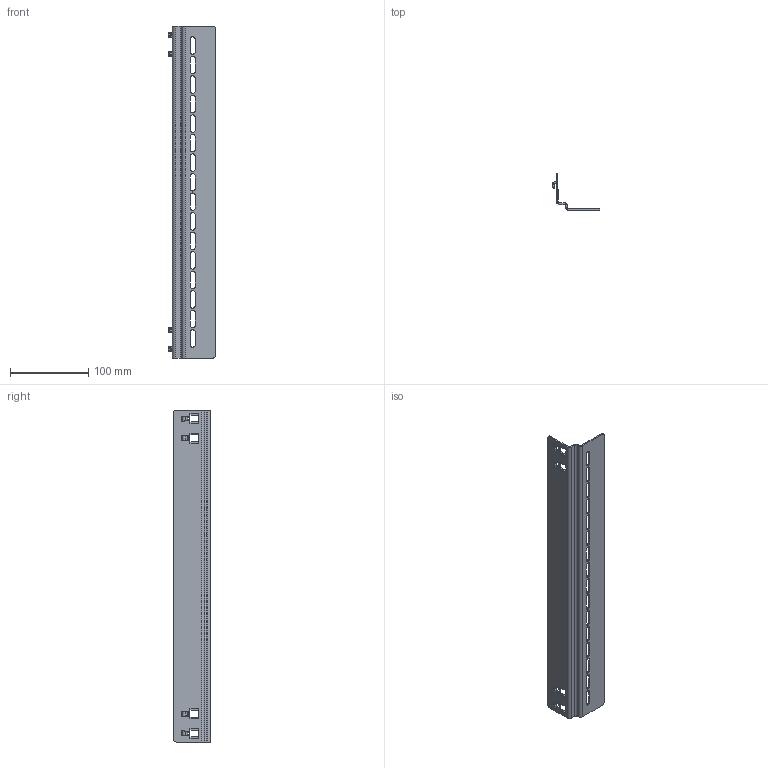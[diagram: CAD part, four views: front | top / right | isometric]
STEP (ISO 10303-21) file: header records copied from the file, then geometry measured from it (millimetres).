
FILE_DESCRIPTION (( 'STEP AP203' ), '1' );
FILE_NAME ('p2rg6.STEP', '2016-10-11T14:03:26', ( '' ), ( '' ), 'SwSTEP 2.0', 'SolidWorks 2014', '' );
FILE_SCHEMA (( 'CONFIG_CONTROL_DESIGN' ));
Length unit declared in the file: millimetre
Products named in the file (2): p2rg6; 89145509
Assembly tree (1 placements, depth 2):
  p2rg6
    89145509
Bounding box: 60.3 x 47 x 425 mm (x, y, z)
Volume: 70271.3 mm3; surface area: 81103.5 mm2
Topology: 1 solids, 1 shells, 258 faces, 680 edges, 424 vertices
Faces by surface type: plane 152, cylinder 74, bspline 32
Entity records: 9136 total; most frequent: CARTESIAN_POINT 2814, ORIENTED_EDGE 1360, DIRECTION 1136, EDGE_CURVE 680, LINE 476, VECTOR 476, VERTEX_POINT 424, AXIS2_PLACEMENT_3D 330
